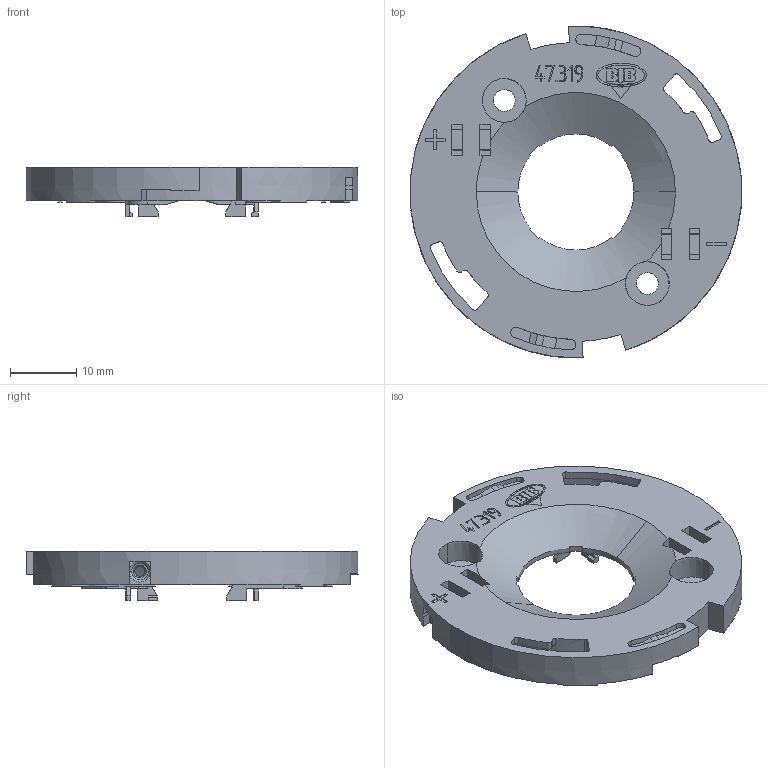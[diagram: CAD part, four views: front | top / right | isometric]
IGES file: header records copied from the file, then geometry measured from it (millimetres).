
Global section: file name: C:\CoreTechnologie\3D-in/01TYA53Y02.igs; native system: CT CoreTechnologie 3D Evolution; preprocessor: 2006; date: 1181028.143010; units: millimetre
Bounding box: 49.93 x 49.99 x 7.48 mm (x, y, z)
Volume: 4097.6 mm3; surface area: 7531.4 mm2
Topology: 3 solids, 3 shells, 776 faces, 2206 edges, 1464 vertices
Faces by surface type: plane 582, revolution 180, bspline 14
